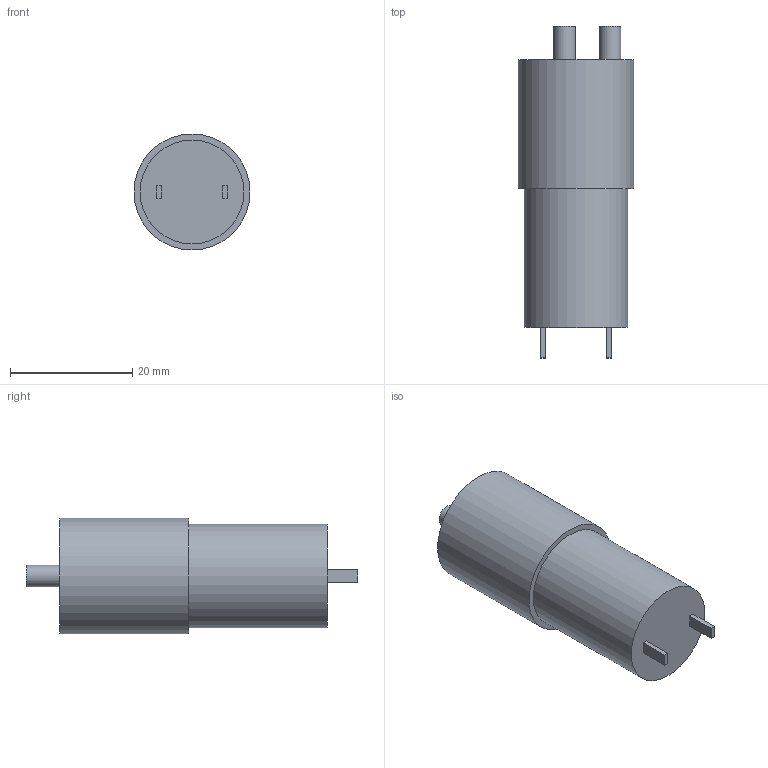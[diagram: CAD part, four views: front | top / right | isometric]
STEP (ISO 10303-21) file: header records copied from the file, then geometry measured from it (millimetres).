
FILE_DESCRIPTION(/* description */ (''),/* implementation_level */ '2;1');
FILE_NAME(/* name */ 'C:\Users\uhlma\OneDrive\Flaura\Produktentwicklung\Gehaeuse\CAD-Konstruktion\Prototyp 9\Thingiverse_Upload\Inventor\Dummy_Water_Pump.stp',/* time_stamp */ '2021-07-25T11:44:47+02:00',/* author */ ('uhlma'),/* organization */ (''),/* preprocessor_version */ 'ST-DEVELOPER v18',/* originating_system */ 'Autodesk Inventor 2020',/* authorisation */ '');
FILE_SCHEMA (('AUTOMOTIVE_DESIGN { 1 0 10303 214 3 1 1 }'));
Length unit declared in the file: millimetre
Products named in the file (1): Pumpe_Dummy
Bounding box: 19 x 54.4 x 19 mm (x, y, z)
Volume: 11284.6 mm3; surface area: 3221.6 mm2
Topology: 1 solids, 1 shells, 19 faces, 44 edges, 32 vertices
Faces by surface type: plane 15, cylinder 4
Full cylindrical faces by diameter (mm): 3.5 x2, 17 x1, 19 x1
Entity records: 615 total; most frequent: DIRECTION 100, CARTESIAN_POINT 96, ORIENTED_EDGE 88, EDGE_CURVE 44, AXIS2_PLACEMENT_3D 36, VERTEX_POINT 32, LINE 28, VECTOR 28
